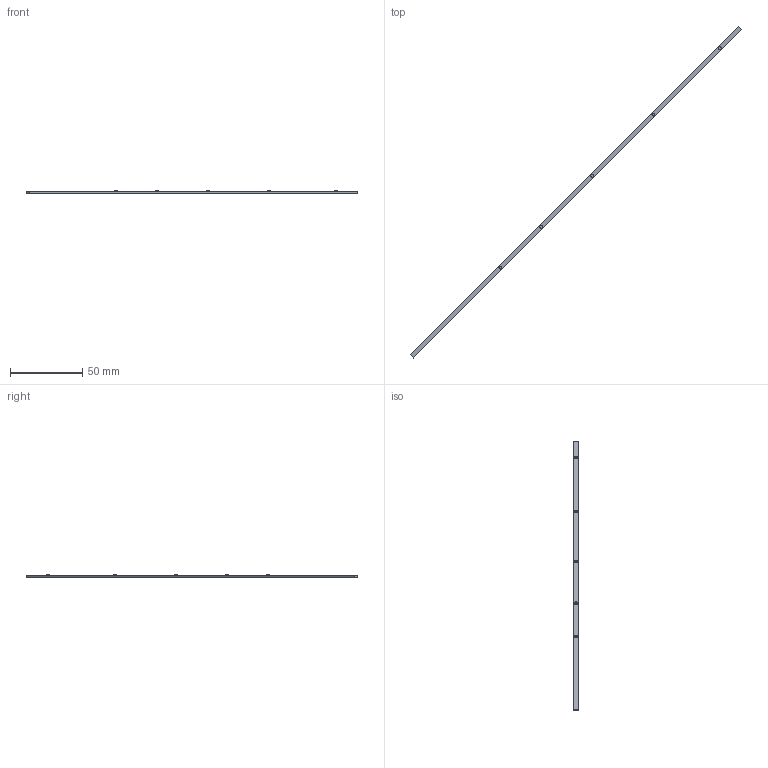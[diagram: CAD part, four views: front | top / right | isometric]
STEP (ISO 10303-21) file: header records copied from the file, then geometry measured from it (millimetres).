
FILE_DESCRIPTION(('Open CASCADE Model'),'2;1');
FILE_NAME('Open CASCADE Shape Model','2026-10-27T10:00:44',('Author'),( 'Open CASCADE'),'Open CASCADE STEP processor 8.0','build123d', 'Unknown');
FILE_SCHEMA(('AUTOMOTIVE_DESIGN { 1 0 10303 214 1 1 1 1 }'));
Length unit declared in the file: millimetre
Products named in the file (2): =>[0:1:1:2]; COMPOUND
Assembly tree (1 placements, depth 2):
  =>[0:1:1:2]
    COMPOUND
Bounding box: 230.16 x 230.16 x 2.3 mm (x, y, z)
Volume: 1750.8 mm3; surface area: 3319.3 mm2
Topology: 1 solids, 1 shells, 16 faces, 27 edges, 18 vertices
Faces by surface type: plane 11, cylinder 5
Full cylindrical faces by diameter (mm): 2 x5
Entity records: 760 total; most frequent: DIRECTION 127, CARTESIAN_POINT 117, LINE 61, VECTOR 61, ORIENTED_EDGE 54, PCURVE 54, DEFINITIONAL_REPRESENTATION 54, AXIS2_PLACEMENT_3D 28
